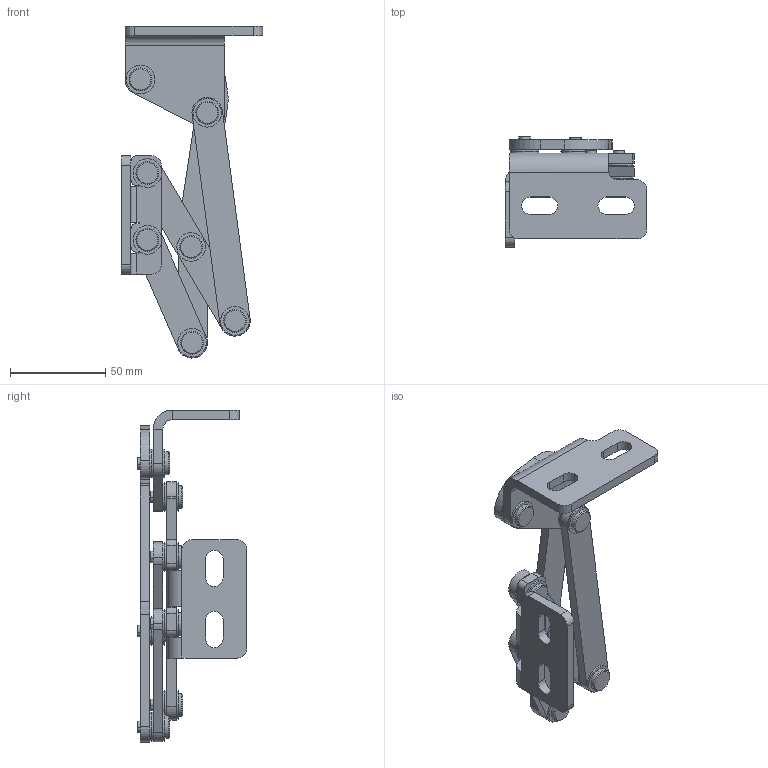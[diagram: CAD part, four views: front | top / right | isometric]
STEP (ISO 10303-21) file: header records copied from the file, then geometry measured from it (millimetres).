
FILE_DESCRIPTION (( 'STEP AP203' ), '1' );
FILE_NAME ('01-M-05-05-10400.STEP', '2021-08-04T09:51:08', ( '' ), ( '' ), 'SwSTEP 2.0', 'SolidWorks 2020', '' );
FILE_SCHEMA (( 'CONFIG_CONTROL_DESIGN' ));
Length unit declared in the file: millimetre
Products named in the file (11): 01-M-05-05-10307_Nit tulejki P.002644_00-00; 01-M-05-05-10401; 01-M-05-05-10304_Blacha 5; 01-M-05-05-10310_Podkˆadka 5.U07.182.07_B; 01-M-05-05-10302; 01-M-05-05-10305; 01-M-05-05-10309_Podkˆadka 5.U07.182.07_A; 01-M-05-05-10402_Blacha 5; 01-M-05-05-10400; 01-M-05-05-10303_Blacha 5; 01-M-05-05-10308_Tulejka Igus GFM-0810-065
Assembly tree (34 placements, depth 2):
  01-M-05-05-10400
    01-M-05-05-10401
    01-M-05-05-10302
    01-M-05-05-10303_Blacha 5
    01-M-05-05-10304_Blacha 5
    01-M-05-05-10305
    01-M-05-05-10402_Blacha 5
    01-M-05-05-10307_Nit tulejki P.002644_00-00  x7
    01-M-05-05-10308_Tulejka Igus GFM-0810-065  x7
    01-M-05-05-10309_Podkˆadka 5.U07.182.07_A  x7
    01-M-05-05-10310_Podkˆadka 5.U07.182.07_B  x7
Bounding box: 74 x 57.5 x 174.01 mm (x, y, z)
Volume: 82940.3 mm3; surface area: 53579.3 mm2
Topology: 34 solids, 34 shells, 414 faces, 931 edges, 604 vertices
Faces by surface type: cylinder 227, plane 145, cone 28, bspline 14
Entity records: 8060 total; most frequent: CARTESIAN_POINT 1230, DIRECTION 1159, ORIENTED_EDGE 974, EDGE_CURVE 487, AXIS2_PLACEMENT_3D 449, VERTEX_POINT 316, VECTOR 261, LINE 261
